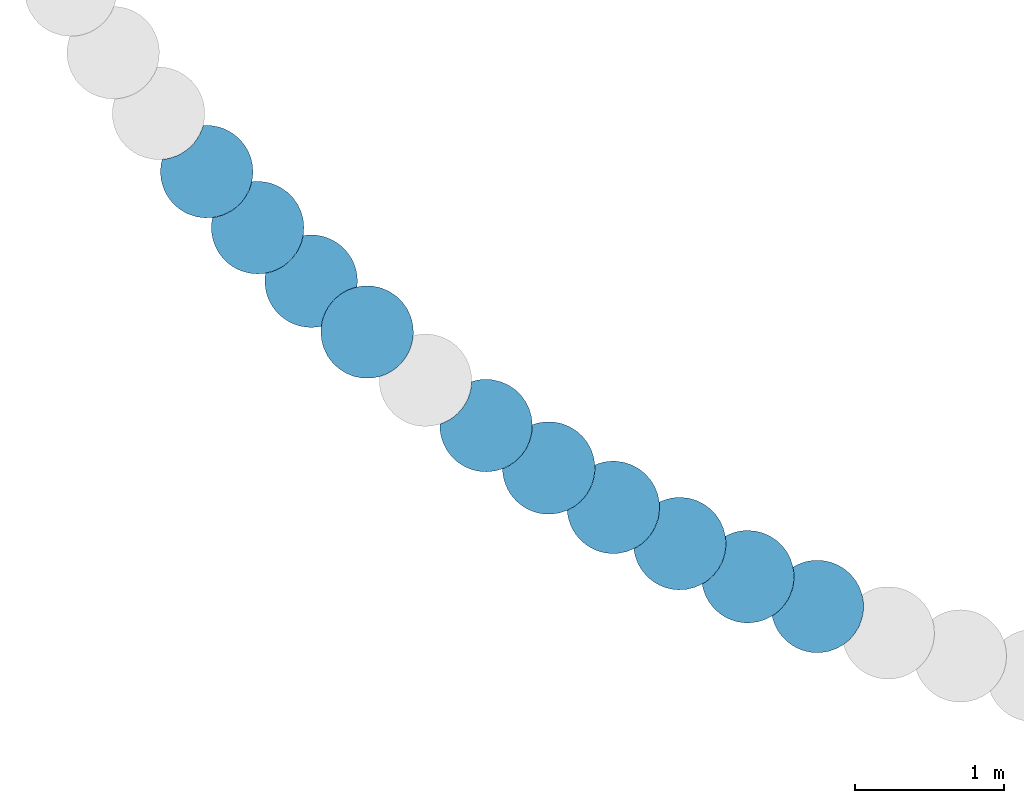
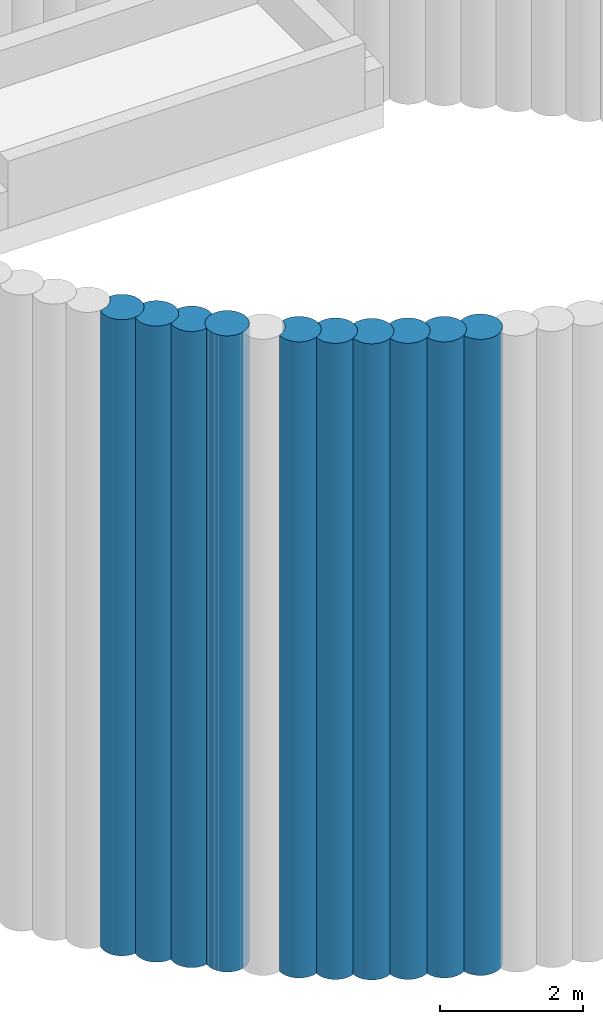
# One storey, part 1 of 16: 10 slabs.
"""IFC2X3 building model written with IfcOpenShell, lengths in centimetres."""

from ifc_helpers import new_model, entity, si_unit, converted_unit, derived_unit, direction, frame, frame_2d, origin, place, context, subcontext, project, spatial, polyline, circle_curve, parameter, trimmed, segment, composite_curve, outline, extrude, material, element, save


model = new_model("IFC2X3")

# Units and contexts
model_context = context("Model", 3, precision=0.001, world=origin(), true_north=direction((6.12303176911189e-17, 1.0)))
body_context = subcontext(model_context, "Body", "Model", "MODEL_VIEW")
ifc_project = project(units=[si_unit("LENGTHUNIT", "METRE", prefix="CENTI"), si_unit("AREAUNIT", "SQUARE_METRE"), si_unit("VOLUMEUNIT", "CUBIC_METRE"), converted_unit("PLANEANGLEUNIT", "DEGREE", entity("IfcRatioMeasure", 0.0174532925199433), si_unit("PLANEANGLEUNIT", "RADIAN"), dimensions=[0, 0, 0, 0, 0, 0, 0]), si_unit("MASSUNIT", "GRAM", prefix="KILO"), derived_unit("MASSDENSITYUNIT", [(si_unit("MASSUNIT", "GRAM", prefix="KILO"), 1), (si_unit("LENGTHUNIT", "METRE"), -3)]), si_unit("TIMEUNIT", "SECOND"), si_unit("FREQUENCYUNIT", "HERTZ"), si_unit("THERMODYNAMICTEMPERATUREUNIT", "DEGREE_CELSIUS"), derived_unit("THERMALTRANSMITTANCEUNIT", [(si_unit("MASSUNIT", "GRAM", prefix="KILO"), 1), (si_unit("THERMODYNAMICTEMPERATUREUNIT", "KELVIN"), -1), (si_unit("TIMEUNIT", "SECOND"), -3)]), derived_unit("VOLUMETRICFLOWRATEUNIT", [(si_unit("LENGTHUNIT", "METRE"), 3), (si_unit("TIMEUNIT", "SECOND"), -1)]), si_unit("ELECTRICCURRENTUNIT", "AMPERE"), si_unit("ELECTRICVOLTAGEUNIT", "VOLT"), si_unit("POWERUNIT", "WATT"), si_unit("FORCEUNIT", "NEWTON", prefix="KILO"), si_unit("ILLUMINANCEUNIT", "LUX"), si_unit("LUMINOUSFLUXUNIT", "LUMEN"), si_unit("LUMINOUSINTENSITYUNIT", "CANDELA"), derived_unit("USERDEFINED", [(si_unit("MASSUNIT", "GRAM", prefix="KILO"), -1), (si_unit("LENGTHUNIT", "METRE"), -2), (si_unit("TIMEUNIT", "SECOND"), 3), (si_unit("LUMINOUSFLUXUNIT", "LUMEN"), 1)]), derived_unit("LINEARVELOCITYUNIT", [(si_unit("LENGTHUNIT", "METRE"), 1), (si_unit("TIMEUNIT", "SECOND"), -1)]), si_unit("PRESSUREUNIT", "PASCAL"), derived_unit("USERDEFINED", [(si_unit("LENGTHUNIT", "METRE"), -2), (si_unit("MASSUNIT", "GRAM", prefix="KILO"), 1), (si_unit("TIMEUNIT", "SECOND"), -2)])], contexts=[model_context])

# Site, building, storey
site_placement = place(None, origin())
site = spatial("IfcSite", under=ifc_project, at=site_placement, Name="Default", CompositionType="ELEMENT")
building_placement = place(site_placement, origin())
building = spatial("IfcBuilding", under=site, at=building_placement, CompositionType="ELEMENT")
storey_placement = place(building_placement, frame((0.0, 0.0, -984.0)))
storey = spatial("IfcBuildingStorey", under=building, at=storey_placement, Name="Niveau Fond de fosse", CompositionType="ELEMENT", Elevation=-984.000000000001)

# Slabs
ifc_material = material(Name="Maçonnerie - Béton coulé sur place")
slab_1_placement = place(storey_placement, origin())
element("IfcSlab", 1, at=slab_1_placement, inside=storey, material=ifc_material, Name="Pieu béton - JBTP:600mm 2", ObjectType="Pieu béton - JBTP:600mm 2", PredefinedType="BASESLAB", context=body_context, shape_type="SweptSolid", body=[
    extrude(outline(polyline([(-2.70806585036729, -31.2191645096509), (2.98635087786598, -31.2191645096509), (8.58388167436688, -30.1778040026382), (13.8964329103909, -28.1303470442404), (18.7447060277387, -25.1460193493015), (22.9653052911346, -21.3255664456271), (26.4160096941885, -16.7978752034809), (28.9805499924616, -11.7156324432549), (30.5725136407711, -6.25018633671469), (31.1382472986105, -0.585782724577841), (30.6579595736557, 5.08527006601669), (29.2467715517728, 10.3149808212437), (26.9461964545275, 15.2184248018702), (23.8266509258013, 19.6473555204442), (19.9831898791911, 23.4660574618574), (15.5344536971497, 26.5567651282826), (10.6164728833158, 28.8255769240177), (5.39469606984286, 30.1997175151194), (4.19185896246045, 30.3837538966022), (2.9863508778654, 30.5187785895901), (-2.56156134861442, 30.5319410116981), (-8.0214739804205, 29.5564006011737), (-13.2199984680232, 27.6236046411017), (-17.990566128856, 24.795654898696), (-22.180726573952, 21.163138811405), (-25.656574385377, 16.8422760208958), (-28.3069945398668, 11.9712228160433), (-30.0471884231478, 6.70568576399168), (-30.821370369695, 1.21398158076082), (-30.6045540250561, -4.32669102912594), (-29.4425270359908, -9.61975749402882), (-27.3769087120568, -14.6283904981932), (-24.4714991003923, -19.2000290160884), (-20.815288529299, -23.1955824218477), (-16.5199368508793, -26.4935491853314), (-11.7164086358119, -28.9936199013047), (-6.56160730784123, -30.6166724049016), (-4.64534801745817, -30.9787523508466), (-2.70806585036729, -31.2191645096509)])), frame((-697.745609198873, -805.458328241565, -300.0), z_axis=(0.0, 0.0, 1.0), x_axis=(0.091845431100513, -0.995773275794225, 0.0)), (0.0, 0.0, 1.0), 1084.0),
])
slab_2_placement = place(storey_placement, origin())
element("IfcSlab", 2, at=slab_2_placement, inside=storey, material=ifc_material, Name="Pieu béton - JBTP:600mm 2", ObjectType="Pieu béton - JBTP:600mm 2", PredefinedType="BASESLAB", context=body_context, shape_type="SweptSolid", body=[
    extrude(outline(composite_curve([segment(trimmed(circle_curve(frame_2d((1.18354648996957, -14.7318661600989), x_axis=(1.0, 0.0)), 30.9999999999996), [parameter(180.0)], [parameter(207.444291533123)], True, "PARAMETER"), True, "CONTINUOUS"), segment(trimmed(circle_curve(frame_2d((-22.2236636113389, -59.7464676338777), x_axis=(0.998867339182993, -0.0475819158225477)), 30.9999999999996), [parameter(30.1715642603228)], [parameter(100.334884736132)], True, "PARAMETER"), False, "CONTINUOUS"), segment(trimmed(circle_curve(frame_2d((1.18354648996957, -14.7318661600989), x_axis=(1.0, 0.0)), 30.9999999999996), [parameter(277.607612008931)], [parameter(4.07110999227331e-13)], True, "PARAMETER"), True, "CONTINUOUS"), segment(polyline([(32.1835464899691, -14.7318661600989), (31.7068413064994, -9.31628922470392)]), True, "CONTINUOUS"), segment(polyline([(31.7068413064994, -9.31628922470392), (30.2921459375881, -4.06934121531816)]), True, "CONTINUOUS"), segment(polyline([(30.2921459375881, -4.06934121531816), (27.9815446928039, 0.85072264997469)]), True, "CONTINUOUS"), segment(polyline([(27.9815446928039, 0.85072264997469), (24.8625540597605, 5.27574740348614)]), True, "CONTINUOUS"), segment(polyline([(24.8625540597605, 5.27574740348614), (21.0196407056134, 9.09100869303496)]), True, "CONTINUOUS"), segment(polyline([(21.0196407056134, 9.09100869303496), (16.5713553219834, 12.1793831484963)]), True, "CONTINUOUS"), segment(polyline([(16.5713553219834, 12.1793831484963), (11.6531207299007, 14.4466878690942)]), True, "CONTINUOUS"), segment(polyline([(11.6531207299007, 14.4466878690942), (6.41465294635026, 15.823583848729)]), True, "CONTINUOUS"), segment(polyline([(6.41465294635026, 15.823583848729), (1.01547753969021, 16.2676782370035)]), True, "CONTINUOUS"), segment(polyline([(1.01547753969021, 16.2676782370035), (-4.38028118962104, 15.7646561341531)]), True, "CONTINUOUS"), segment(polyline([(-4.38028118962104, 15.7646561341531), (-9.56967916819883, 14.3433490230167)]), True, "CONTINUOUS"), segment(polyline([(-9.56967916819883, 14.3433490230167), (-14.435362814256, 12.0459170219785)]), True, "CONTINUOUS"), segment(polyline([(-14.435362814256, 12.0459170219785), (-18.830029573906, 8.94210209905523)]), True, "CONTINUOUS"), segment(polyline([(-18.830029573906, 8.94210209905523), (-22.6217091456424, 5.12536940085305)]), True, "CONTINUOUS"), segment(polyline([(-22.6217091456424, 5.12536940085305), (-25.6964633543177, 0.710448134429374)]), True, "CONTINUOUS"), segment(polyline([(-25.6964633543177, 0.710448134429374), (-27.9617477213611, -4.1700564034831)]), True, "CONTINUOUS"), segment(polyline([(-27.9617477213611, -4.1700564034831), (-29.3490361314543, -9.36890070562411)]), True, "CONTINUOUS"), segment(polyline([(-29.3490361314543, -9.36890070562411), (-29.81645351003, -14.7318661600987)]), True, "CONTINUOUS")], self_intersect=False)), frame((-603.612112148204, -869.562046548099, -300.0), z_axis=(0.0, 0.0, 1.0), x_axis=(-0.162363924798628, -0.986730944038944, 0.0)), (0.0, 0.0, 1.0), 1084.0),
])
slab_3_placement = place(storey_placement, origin())
element("IfcSlab", 3, at=slab_3_placement, inside=storey, material=ifc_material, Name="Pieu béton - JBTP:600mm 2", ObjectType="Pieu béton - JBTP:600mm 2", PredefinedType="BASESLAB", context=body_context, shape_type="SweptSolid", body=[
    extrude(outline(composite_curve([segment(trimmed(circle_curve(frame_2d((1.18354648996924, -14.7318661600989), x_axis=(1.0, 0.0)), 30.9999999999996), [parameter(180.0)], [parameter(207.444291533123)], True, "PARAMETER"), True, "CONTINUOUS"), segment(trimmed(circle_curve(frame_2d((-22.2236636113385, -59.7464676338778), x_axis=(0.998867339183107, -0.047581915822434)), 30.9999999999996), [parameter(30.1715642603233)], [parameter(100.334884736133)], True, "PARAMETER"), False, "CONTINUOUS"), segment(trimmed(circle_curve(frame_2d((1.18354648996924, -14.7318661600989), x_axis=(1.0, 0.0)), 30.9999999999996), [parameter(277.607612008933)], [parameter(4.07110999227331e-13)], True, "PARAMETER"), True, "CONTINUOUS"), segment(polyline([(32.1835464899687, -14.7318661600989), (31.706841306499, -9.3162892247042)]), True, "CONTINUOUS"), segment(polyline([(31.706841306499, -9.3162892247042), (30.2921459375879, -4.06934121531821)]), True, "CONTINUOUS"), segment(polyline([(30.2921459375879, -4.06934121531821), (27.9815446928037, 0.850722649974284)]), True, "CONTINUOUS"), segment(polyline([(27.9815446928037, 0.850722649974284), (24.8625540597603, 5.27574740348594)]), True, "CONTINUOUS"), segment(polyline([(24.8625540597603, 5.27574740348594), (21.0196407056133, 9.09100869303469)]), True, "CONTINUOUS"), segment(polyline([(21.0196407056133, 9.09100869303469), (16.5713553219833, 12.1793831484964)]), True, "CONTINUOUS"), segment(polyline([(16.5713553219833, 12.1793831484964), (11.6531207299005, 14.4466878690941)]), True, "CONTINUOUS"), segment(polyline([(11.6531207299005, 14.4466878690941), (6.41465294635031, 15.823583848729)]), True, "CONTINUOUS"), segment(polyline([(6.41465294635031, 15.823583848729), (1.0154775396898, 16.2676782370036)]), True, "CONTINUOUS"), segment(polyline([(1.0154775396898, 16.2676782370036), (-4.38028118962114, 15.7646561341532)]), True, "CONTINUOUS"), segment(polyline([(-4.38028118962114, 15.7646561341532), (-9.56967916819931, 14.3433490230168)]), True, "CONTINUOUS"), segment(polyline([(-9.56967916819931, 14.3433490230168), (-14.4353628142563, 12.0459170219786)]), True, "CONTINUOUS"), segment(polyline([(-14.4353628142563, 12.0459170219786), (-18.8300295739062, 8.94210209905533)]), True, "CONTINUOUS"), segment(polyline([(-18.8300295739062, 8.94210209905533), (-22.6217091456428, 5.12536940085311)]), True, "CONTINUOUS"), segment(polyline([(-22.6217091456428, 5.12536940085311), (-25.6964633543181, 0.710448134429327)]), True, "CONTINUOUS"), segment(polyline([(-25.6964633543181, 0.710448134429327), (-27.9617477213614, -4.17005640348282)]), True, "CONTINUOUS"), segment(polyline([(-27.9617477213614, -4.17005640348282), (-29.3490361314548, -9.368900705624)]), True, "CONTINUOUS"), segment(polyline([(-29.3490361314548, -9.368900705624), (-29.8164535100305, -14.7318661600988)]), True, "CONTINUOUS")], self_intersect=False)), frame((-561.552996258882, -897.298148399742, -300.0), z_axis=(0.0, 0.0, 1.0), x_axis=(-0.115229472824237, -0.993338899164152, 0.0)), (0.0, 0.0, 1.0), 1084.0),
])
slab_4_placement = place(storey_placement, origin())
element("IfcSlab", 4, at=slab_4_placement, inside=storey, material=ifc_material, Name="Pieu béton - JBTP:600mm 2", ObjectType="Pieu béton - JBTP:600mm 2", PredefinedType="BASESLAB", context=body_context, shape_type="SweptSolid", body=[
    extrude(outline(composite_curve([segment(trimmed(circle_curve(frame_2d((1.1835464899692, -14.731866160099), x_axis=(1.0, 0.0)), 30.9999999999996), [parameter(180.0)], [parameter(207.444291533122)], True, "PARAMETER"), True, "CONTINUOUS"), segment(trimmed(circle_curve(frame_2d((-22.2236636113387, -59.7464676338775), x_axis=(0.998867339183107, -0.0475819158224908)), 30.9999999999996), [parameter(30.1715642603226)], [parameter(100.334884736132)], True, "PARAMETER"), False, "CONTINUOUS"), segment(trimmed(circle_curve(frame_2d((1.1835464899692, -14.731866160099), x_axis=(1.0, 0.0)), 30.9999999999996), [parameter(277.607612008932)], [parameter(4.07110999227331e-13)], True, "PARAMETER"), True, "CONTINUOUS"), segment(polyline([(32.1835464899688, -14.7318661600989), (31.706841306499, -9.31628922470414)]), True, "CONTINUOUS"), segment(polyline([(31.706841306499, -9.31628922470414), (30.2921459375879, -4.06934121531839)]), True, "CONTINUOUS"), segment(polyline([(30.2921459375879, -4.06934121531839), (27.9815446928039, 0.850722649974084)]), True, "CONTINUOUS"), segment(polyline([(27.9815446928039, 0.850722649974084), (24.8625540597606, 5.2757474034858)]), True, "CONTINUOUS"), segment(polyline([(24.8625540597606, 5.2757474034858), (21.0196407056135, 9.09100869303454)]), True, "CONTINUOUS"), segment(polyline([(21.0196407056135, 9.09100869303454), (16.5713553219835, 12.179383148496)]), True, "CONTINUOUS"), segment(polyline([(16.5713553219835, 12.179383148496), (11.6531207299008, 14.446687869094)]), True, "CONTINUOUS"), segment(polyline([(11.6531207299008, 14.446687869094), (6.41465294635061, 15.823583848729)]), True, "CONTINUOUS"), segment(polyline([(6.41465294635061, 15.823583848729), (1.01547753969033, 16.2676782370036)]), True, "CONTINUOUS"), segment(polyline([(1.01547753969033, 16.2676782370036), (-4.38028118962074, 15.7646561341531)]), True, "CONTINUOUS"), segment(polyline([(-4.38028118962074, 15.7646561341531), (-9.5696791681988, 14.343349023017)]), True, "CONTINUOUS"), segment(polyline([(-9.5696791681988, 14.343349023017), (-14.435362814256, 12.0459170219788)]), True, "CONTINUOUS"), segment(polyline([(-14.435362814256, 12.0459170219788), (-18.8300295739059, 8.94210209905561)]), True, "CONTINUOUS"), segment(polyline([(-18.8300295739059, 8.94210209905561), (-22.6217091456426, 5.12536940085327)]), True, "CONTINUOUS"), segment(polyline([(-22.6217091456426, 5.12536940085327), (-25.6964633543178, 0.710448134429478)]), True, "CONTINUOUS"), segment(polyline([(-25.6964633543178, 0.710448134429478), (-27.9617477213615, -4.17005640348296)]), True, "CONTINUOUS"), segment(polyline([(-27.9617477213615, -4.17005640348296), (-29.3490361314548, -9.36890070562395)]), True, "CONTINUOUS"), segment(polyline([(-29.3490361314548, -9.36890070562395), (-29.8164535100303, -14.7318661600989)]), True, "CONTINUOUS")], self_intersect=False)), frame((-518.221782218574, -923.00158134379, -300.0), z_axis=(0.0, 0.0, 1.0), x_axis=(-0.0678339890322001, -0.997696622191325, 0.0)), (0.0, 0.0, 1.0), 1084.0),
])
slab_5_placement = place(storey_placement, origin())
element("IfcSlab", 5, at=slab_5_placement, inside=storey, material=ifc_material, Name="Pieu béton - JBTP:600mm 2", ObjectType="Pieu béton - JBTP:600mm 2", PredefinedType="BASESLAB", context=body_context, shape_type="SweptSolid", body=[
    extrude(outline(composite_curve([segment(trimmed(circle_curve(frame_2d((1.18354648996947, -14.7318661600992), x_axis=(1.0, 0.0)), 30.9999999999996), [parameter(180.0)], [parameter(207.444291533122)], True, "PARAMETER"), True, "CONTINUOUS"), segment(trimmed(circle_curve(frame_2d((-22.2236636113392, -59.7464676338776), x_axis=(0.998867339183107, -0.047581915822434)), 30.9999999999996), [parameter(30.1715642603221)], [parameter(100.334884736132)], True, "PARAMETER"), False, "CONTINUOUS"), segment(trimmed(circle_curve(frame_2d((1.18354648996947, -14.7318661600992), x_axis=(1.0, 0.0)), 30.9999999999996), [parameter(277.607612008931)], [parameter(4.07110999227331e-13)], True, "PARAMETER"), True, "CONTINUOUS"), segment(polyline([(32.183546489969, -14.7318661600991), (31.7068413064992, -9.31628922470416)]), True, "CONTINUOUS"), segment(polyline([(31.7068413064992, -9.31628922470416), (30.2921459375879, -4.06934121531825)]), True, "CONTINUOUS"), segment(polyline([(30.2921459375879, -4.06934121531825), (27.9815446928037, 0.850722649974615)]), True, "CONTINUOUS"), segment(polyline([(27.9815446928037, 0.850722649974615), (24.8625540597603, 5.27574740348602)]), True, "CONTINUOUS"), segment(polyline([(24.8625540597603, 5.27574740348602), (21.0196407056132, 9.09100869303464)]), True, "CONTINUOUS"), segment(polyline([(21.0196407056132, 9.09100869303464), (16.5713553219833, 12.179383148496)]), True, "CONTINUOUS"), segment(polyline([(16.5713553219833, 12.179383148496), (11.6531207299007, 14.4466878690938)]), True, "CONTINUOUS"), segment(polyline([(11.6531207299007, 14.4466878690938), (6.41465294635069, 15.8235838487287)]), True, "CONTINUOUS"), segment(polyline([(6.41465294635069, 15.8235838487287), (1.01547753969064, 16.2676782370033)]), True, "CONTINUOUS"), segment(polyline([(1.01547753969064, 16.2676782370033), (-4.38028118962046, 15.7646561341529)]), True, "CONTINUOUS"), segment(polyline([(-4.38028118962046, 15.7646561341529), (-9.56967916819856, 14.3433490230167)]), True, "CONTINUOUS"), segment(polyline([(-9.56967916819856, 14.3433490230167), (-14.4353628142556, 12.0459170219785)]), True, "CONTINUOUS"), segment(polyline([(-14.4353628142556, 12.0459170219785), (-18.8300295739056, 8.94210209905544)]), True, "CONTINUOUS"), segment(polyline([(-18.8300295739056, 8.94210209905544), (-22.6217091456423, 5.1253694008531)]), True, "CONTINUOUS"), segment(polyline([(-22.6217091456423, 5.1253694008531), (-25.6964633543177, 0.710448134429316)]), True, "CONTINUOUS"), segment(polyline([(-25.6964633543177, 0.710448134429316), (-27.9617477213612, -4.17005640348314)]), True, "CONTINUOUS"), segment(polyline([(-27.9617477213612, -4.17005640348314), (-29.3490361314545, -9.36890070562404)]), True, "CONTINUOUS"), segment(polyline([(-29.3490361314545, -9.36890070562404), (-29.8164535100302, -14.731866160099)]), True, "CONTINUOUS")], self_intersect=False)), frame((-473.716629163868, -946.614118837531, -300.0), z_axis=(0.0, 0.0, 1.0), x_axis=(-0.020284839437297, -0.999794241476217, 0.0)), (0.0, 0.0, 1.0), 1084.0),
])
slab_6_placement = place(storey_placement, origin())
element("IfcSlab", 6, at=slab_6_placement, inside=storey, material=ifc_material, Name="Pieu béton - JBTP:600mm 2", ObjectType="Pieu béton - JBTP:600mm 2", PredefinedType="BASESLAB", context=body_context, shape_type="SweptSolid", body=[
    extrude(outline(composite_curve([segment(trimmed(circle_curve(frame_2d((1.18354648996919, -14.7318661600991), x_axis=(1.0, 0.0)), 30.9999999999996), [parameter(180.0)], [parameter(207.444291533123)], True, "PARAMETER"), True, "CONTINUOUS"), segment(trimmed(circle_curve(frame_2d((-22.2236636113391, -59.7464676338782), x_axis=(0.998867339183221, -0.0475819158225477)), 30.9999999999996), [parameter(30.1715642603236)], [parameter(100.334884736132)], True, "PARAMETER"), False, "CONTINUOUS"), segment(trimmed(circle_curve(frame_2d((1.18354648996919, -14.7318661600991), x_axis=(1.0, 0.0)), 30.9999999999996), [parameter(277.607612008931)], [parameter(4.07110999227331e-13)], True, "PARAMETER"), True, "CONTINUOUS"), segment(polyline([(32.1835464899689, -14.7318661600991), (31.7068413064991, -9.31628922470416)]), True, "CONTINUOUS"), segment(polyline([(31.7068413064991, -9.31628922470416), (30.2921459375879, -4.0693412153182)]), True, "CONTINUOUS"), segment(polyline([(30.2921459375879, -4.0693412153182), (27.9815446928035, 0.850722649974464)]), True, "CONTINUOUS"), segment(polyline([(27.9815446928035, 0.850722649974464), (24.8625540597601, 5.27574740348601)]), True, "CONTINUOUS"), segment(polyline([(24.8625540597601, 5.27574740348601), (21.0196407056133, 9.09100869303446)]), True, "CONTINUOUS"), segment(polyline([(21.0196407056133, 9.09100869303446), (16.5713553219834, 12.179383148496)]), True, "CONTINUOUS"), segment(polyline([(16.5713553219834, 12.179383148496), (11.6531207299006, 14.446687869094)]), True, "CONTINUOUS"), segment(polyline([(11.6531207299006, 14.446687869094), (6.41465294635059, 15.8235838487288)]), True, "CONTINUOUS"), segment(polyline([(6.41465294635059, 15.8235838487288), (1.01547753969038, 16.2676782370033)]), True, "CONTINUOUS"), segment(polyline([(1.01547753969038, 16.2676782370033), (-4.38028118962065, 15.7646561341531)]), True, "CONTINUOUS"), segment(polyline([(-4.38028118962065, 15.7646561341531), (-9.56967916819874, 14.3433490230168)]), True, "CONTINUOUS"), segment(polyline([(-9.56967916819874, 14.3433490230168), (-14.4353628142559, 12.0459170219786)]), True, "CONTINUOUS"), segment(polyline([(-14.4353628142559, 12.0459170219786), (-18.8300295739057, 8.94210209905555)]), True, "CONTINUOUS"), segment(polyline([(-18.8300295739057, 8.94210209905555), (-22.6217091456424, 5.12536940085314)]), True, "CONTINUOUS"), segment(polyline([(-22.6217091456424, 5.12536940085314), (-25.6964633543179, 0.710448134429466)]), True, "CONTINUOUS"), segment(polyline([(-25.6964633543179, 0.710448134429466), (-27.9617477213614, -4.17005640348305)]), True, "CONTINUOUS"), segment(polyline([(-27.9617477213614, -4.17005640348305), (-29.3490361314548, -9.36890070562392)]), True, "CONTINUOUS"), segment(polyline([(-29.3490361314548, -9.36890070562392), (-29.8164535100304, -14.731866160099)]), True, "CONTINUOUS")], self_intersect=False)), frame((-428.138355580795, -968.08227088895, -300.0), z_axis=(0.0, 0.0, 1.0), x_axis=(0.0273102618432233, -0.999627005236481, 0.0)), (0.0, 0.0, 1.0), 1084.0),
])
slab_7_placement = place(storey_placement, origin())
element("IfcSlab", 7, at=slab_7_placement, inside=storey, material=ifc_material, Name="Pieu béton - JBTP:600mm 2", ObjectType="Pieu béton - JBTP:600mm 2", PredefinedType="BASESLAB", context=body_context, shape_type="SweptSolid", body=[
    extrude(outline(composite_curve([segment(trimmed(circle_curve(frame_2d((1.18354648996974, -14.7318661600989), x_axis=(1.0, 0.0)), 30.9999999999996), [parameter(180.0)], [parameter(207.444291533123)], True, "PARAMETER"), True, "CONTINUOUS"), segment(trimmed(circle_curve(frame_2d((-22.2236636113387, -59.7464676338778), x_axis=(0.998867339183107, -0.0475819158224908)), 30.9999999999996), [parameter(30.1715642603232)], [parameter(100.334884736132)], True, "PARAMETER"), False, "CONTINUOUS"), segment(trimmed(circle_curve(frame_2d((1.18354648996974, -14.7318661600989), x_axis=(1.0, 0.0)), 30.9999999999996), [parameter(277.607612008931)], [parameter(4.07110999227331e-13)], True, "PARAMETER"), True, "CONTINUOUS"), segment(polyline([(32.1835464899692, -14.7318661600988), (31.7068413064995, -9.31628922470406)]), True, "CONTINUOUS"), segment(polyline([(31.7068413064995, -9.31628922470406), (30.2921459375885, -4.06934121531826)]), True, "CONTINUOUS"), segment(polyline([(30.2921459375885, -4.06934121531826), (27.9815446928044, 0.850722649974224)]), True, "CONTINUOUS"), segment(polyline([(27.9815446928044, 0.850722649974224), (24.8625540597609, 5.27574740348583)]), True, "CONTINUOUS"), segment(polyline([(24.8625540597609, 5.27574740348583), (21.0196407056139, 9.09100869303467)]), True, "CONTINUOUS"), segment(polyline([(21.0196407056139, 9.09100869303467), (16.571355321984, 12.1793831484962)]), True, "CONTINUOUS"), segment(polyline([(16.571355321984, 12.1793831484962), (11.6531207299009, 14.4466878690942)]), True, "CONTINUOUS"), segment(polyline([(11.6531207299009, 14.4466878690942), (6.41465294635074, 15.8235838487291)]), True, "CONTINUOUS"), segment(polyline([(6.41465294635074, 15.8235838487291), (1.01547753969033, 16.2676782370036)]), True, "CONTINUOUS"), segment(polyline([(1.01547753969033, 16.2676782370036), (-4.38028118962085, 15.7646561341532)]), True, "CONTINUOUS"), segment(polyline([(-4.38028118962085, 15.7646561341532), (-9.56967916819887, 14.3433490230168)]), True, "CONTINUOUS"), segment(polyline([(-9.56967916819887, 14.3433490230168), (-14.4353628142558, 12.0459170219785)]), True, "CONTINUOUS"), segment(polyline([(-14.4353628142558, 12.0459170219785), (-18.8300295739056, 8.94210209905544)]), True, "CONTINUOUS"), segment(polyline([(-18.8300295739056, 8.94210209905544), (-22.6217091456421, 5.1253694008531)]), True, "CONTINUOUS"), segment(polyline([(-22.6217091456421, 5.1253694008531), (-25.6964633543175, 0.710448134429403)]), True, "CONTINUOUS"), segment(polyline([(-25.6964633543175, 0.710448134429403), (-27.961747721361, -4.17005640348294)]), True, "CONTINUOUS"), segment(polyline([(-27.961747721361, -4.17005640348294), (-29.3490361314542, -9.3689007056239)]), True, "CONTINUOUS"), segment(polyline([(-29.3490361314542, -9.3689007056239), (-29.81645351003, -14.7318661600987)]), True, "CONTINUOUS")], self_intersect=False)), frame((-381.59021091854, -987.357405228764, -300.0), z_axis=(0.0, 0.0, 1.0), x_axis=(0.0748434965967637, -0.997195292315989, 0.0)), (0.0, 0.0, 1.0), 1084.0),
])
slab_8_placement = place(storey_placement, origin())
element("IfcSlab", 8, at=slab_8_placement, inside=storey, material=ifc_material, Name="Pieu béton - JBTP:600mm 2", ObjectType="Pieu béton - JBTP:600mm 2", PredefinedType="BASESLAB", context=body_context, shape_type="SweptSolid", body=[
    extrude(outline(composite_curve([segment(trimmed(circle_curve(frame_2d((1.18354648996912, -14.7318661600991), x_axis=(1.0, 0.0)), 30.9999999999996), [parameter(180.0)], [parameter(207.444291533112)], True, "PARAMETER"), True, "CONTINUOUS"), segment(trimmed(circle_curve(frame_2d((-22.2236636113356, -59.7464676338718), x_axis=(0.99886733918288, -0.0475819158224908)), 30.9999999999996), [parameter(30.1715642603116)], [parameter(100.334884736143)], True, "PARAMETER"), False, "CONTINUOUS"), segment(trimmed(circle_curve(frame_2d((1.18354648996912, -14.7318661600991), x_axis=(1.0, 0.0)), 30.9999999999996), [parameter(277.607612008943)], [parameter(4.07110999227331e-13)], True, "PARAMETER"), True, "CONTINUOUS"), segment(polyline([(32.1835464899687, -14.7318661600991), (31.7068413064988, -9.31628922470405)]), True, "CONTINUOUS"), segment(polyline([(31.7068413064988, -9.31628922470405), (30.2921459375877, -4.06934121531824)]), True, "CONTINUOUS"), segment(polyline([(30.2921459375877, -4.06934121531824), (27.9815446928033, 0.8507226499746)]), True, "CONTINUOUS"), segment(polyline([(27.9815446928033, 0.8507226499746), (24.8625540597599, 5.27574740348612)]), True, "CONTINUOUS"), segment(polyline([(24.8625540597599, 5.27574740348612), (21.0196407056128, 9.09100869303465)]), True, "CONTINUOUS"), segment(polyline([(21.0196407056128, 9.09100869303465), (16.5713553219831, 12.1793831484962)]), True, "CONTINUOUS"), segment(polyline([(16.5713553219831, 12.1793831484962), (11.6531207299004, 14.4466878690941)]), True, "CONTINUOUS"), segment(polyline([(11.6531207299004, 14.4466878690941), (6.41465294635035, 15.8235838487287)]), True, "CONTINUOUS"), segment(polyline([(6.41465294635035, 15.8235838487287), (1.01547753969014, 16.2676782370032)]), True, "CONTINUOUS"), segment(polyline([(1.01547753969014, 16.2676782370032), (-4.38028118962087, 15.7646561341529)]), True, "CONTINUOUS"), segment(polyline([(-4.38028118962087, 15.7646561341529), (-9.56967916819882, 14.3433490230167)]), True, "CONTINUOUS"), segment(polyline([(-9.56967916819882, 14.3433490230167), (-14.4353628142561, 12.0459170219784)]), True, "CONTINUOUS"), segment(polyline([(-14.4353628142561, 12.0459170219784), (-18.830029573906, 8.94210209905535)]), True, "CONTINUOUS"), segment(polyline([(-18.830029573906, 8.94210209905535), (-22.6217091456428, 5.125369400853)]), True, "CONTINUOUS"), segment(polyline([(-22.6217091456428, 5.125369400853), (-25.696463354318, 0.710448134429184)]), True, "CONTINUOUS"), segment(polyline([(-25.696463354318, 0.710448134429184), (-27.9617477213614, -4.17005640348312)]), True, "CONTINUOUS"), segment(polyline([(-27.9617477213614, -4.17005640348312), (-29.3490361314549, -9.36890070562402)]), True, "CONTINUOUS"), segment(polyline([(-29.3490361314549, -9.36890070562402), (-29.8164535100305, -14.7318661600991)]), True, "CONTINUOUS")], self_intersect=False)), frame((-791.604255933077, -702.743507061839, -300.0), z_axis=(0.0, 0.0, 1.0), x_axis=(-0.390417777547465, -0.920637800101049, 0.0)), (0.0, 0.0, 1.0), 1084.0),
])
slab_9_placement = place(storey_placement, origin())
element("IfcSlab", 9, at=slab_9_placement, inside=storey, material=ifc_material, Name="Pieu béton - JBTP:600mm 2", ObjectType="Pieu béton - JBTP:600mm 2", PredefinedType="BASESLAB", context=body_context, shape_type="SweptSolid", body=[
    extrude(outline(composite_curve([segment(trimmed(circle_curve(frame_2d((1.18354648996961, -14.7318661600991), x_axis=(1.0, 0.0)), 30.9999999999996), [parameter(180.0)], [parameter(207.444291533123)], True, "PARAMETER"), True, "CONTINUOUS"), segment(trimmed(circle_curve(frame_2d((-22.2236636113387, -59.7464676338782), x_axis=(0.998867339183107, -0.0475819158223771)), 30.9999999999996), [parameter(30.1715642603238)], [parameter(100.334884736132)], True, "PARAMETER"), False, "CONTINUOUS"), segment(trimmed(circle_curve(frame_2d((1.18354648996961, -14.7318661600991), x_axis=(1.0, 0.0)), 30.9999999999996), [parameter(277.607612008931)], [parameter(4.07110999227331e-13)], True, "PARAMETER"), True, "CONTINUOUS"), segment(polyline([(32.1835464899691, -14.7318661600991), (31.7068413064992, -9.31628922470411)]), True, "CONTINUOUS"), segment(polyline([(31.7068413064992, -9.31628922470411), (30.2921459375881, -4.06934121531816)]), True, "CONTINUOUS"), segment(polyline([(30.2921459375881, -4.06934121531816), (27.9815446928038, 0.850722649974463)]), True, "CONTINUOUS"), segment(polyline([(27.9815446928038, 0.850722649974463), (24.8625540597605, 5.27574740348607)]), True, "CONTINUOUS"), segment(polyline([(24.8625540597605, 5.27574740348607), (21.0196407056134, 9.09100869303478)]), True, "CONTINUOUS"), segment(polyline([(21.0196407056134, 9.09100869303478), (16.5713553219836, 12.1793831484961)]), True, "CONTINUOUS"), segment(polyline([(16.5713553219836, 12.1793831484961), (11.6531207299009, 14.446687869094)]), True, "CONTINUOUS"), segment(polyline([(11.6531207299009, 14.446687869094), (6.41465294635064, 15.8235838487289)]), True, "CONTINUOUS"), segment(polyline([(6.41465294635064, 15.8235838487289), (1.01547753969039, 16.2676782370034)]), True, "CONTINUOUS"), segment(polyline([(1.01547753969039, 16.2676782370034), (-4.38028118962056, 15.764656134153)]), True, "CONTINUOUS"), segment(polyline([(-4.38028118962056, 15.764656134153), (-9.56967916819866, 14.3433490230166)]), True, "CONTINUOUS"), segment(polyline([(-9.56967916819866, 14.3433490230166), (-14.4353628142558, 12.0459170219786)]), True, "CONTINUOUS"), segment(polyline([(-14.4353628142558, 12.0459170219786), (-18.8300295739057, 8.94210209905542)]), True, "CONTINUOUS"), segment(polyline([(-18.8300295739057, 8.94210209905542), (-22.6217091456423, 5.12536940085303)]), True, "CONTINUOUS"), segment(polyline([(-22.6217091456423, 5.12536940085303), (-25.6964633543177, 0.710448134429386)]), True, "CONTINUOUS"), segment(polyline([(-25.6964633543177, 0.710448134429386), (-27.9617477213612, -4.17005640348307)]), True, "CONTINUOUS"), segment(polyline([(-27.9617477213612, -4.17005640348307), (-29.3490361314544, -9.36890070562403)]), True, "CONTINUOUS"), segment(polyline([(-29.3490361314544, -9.36890070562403), (-29.81645351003, -14.7318661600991)]), True, "CONTINUOUS")], self_intersect=False)), frame((-757.269754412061, -739.613584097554, -300.0), z_axis=(0.0, 0.0, 1.0), x_axis=(-0.346169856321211, -0.938171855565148, 0.0)), (0.0, 0.0, 1.0), 1084.0),
])
slab_10_placement = place(storey_placement, origin())
element("IfcSlab", 10, at=slab_10_placement, inside=storey, material=ifc_material, Name="Pieu béton - JBTP:600mm 2", ObjectType="Pieu béton - JBTP:600mm 2", PredefinedType="BASESLAB", context=body_context, shape_type="SweptSolid", body=[
    extrude(outline(composite_curve([segment(trimmed(circle_curve(frame_2d((-0.277737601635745, 0.291282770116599), x_axis=(-0.301137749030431, 0.953580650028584)), 30.9999999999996), [parameter(329.828435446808)], [parameter(0.0)], True, "PARAMETER"), True, "CONTINUOUS"), segment(trimmed(circle_curve(frame_2d((-0.277737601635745, 0.291282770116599), x_axis=(-0.301137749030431, 0.953580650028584)), 30.9999999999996), [parameter(360.0)], [parameter(82.3923879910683)], True, "PARAMETER"), True, "CONTINUOUS"), segment(trimmed(circle_curve(frame_2d((-36.1539959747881, -35.5849756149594), x_axis=(-0.346169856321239, 0.938171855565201)), 30.9999999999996), [parameter(259.665115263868)], [parameter(329.828435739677)], True, "PARAMETER"), False, "CONTINUOUS"), segment(trimmed(circle_curve(frame_2d((-0.277737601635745, 0.291282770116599), x_axis=(-0.301137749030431, 0.953580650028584)), 30.9999999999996), [parameter(152.555708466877)], [parameter(180.0)], True, "PARAMETER"), True, "CONTINUOUS"), segment(trimmed(circle_curve(frame_2d((-0.277737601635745, 0.291282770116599), x_axis=(-0.301137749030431, 0.953580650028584)), 30.9999999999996), [parameter(180.0)], [parameter(259.665115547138)], True, "PARAMETER"), True, "CONTINUOUS"), segment(trimmed(circle_curve(frame_2d((37.2649463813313, 34.4198445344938), x_axis=(1.0, 0.0)), 30.9999999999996), [parameter(187.191067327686)], [parameter(257.354387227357)], True, "PARAMETER"), False, "CONTINUOUS")], self_intersect=False)), frame((-735.346488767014, -771.209201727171, -300.0), z_axis=(0.0, 0.0, -1.0), x_axis=(1.0, 0.0, 0.0)), (0.0, 0.0, -1.0), 1084.0),
])

save(model, "model.ifc")
